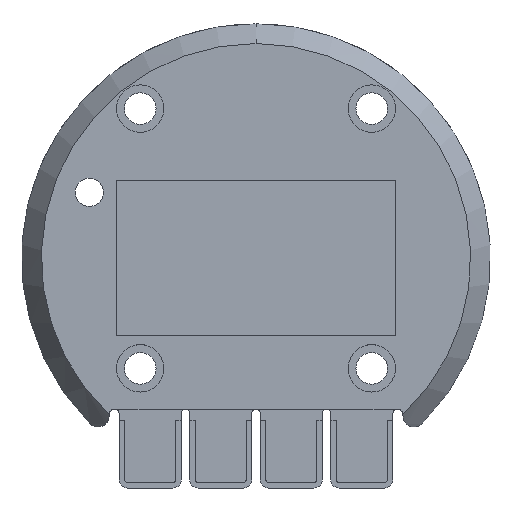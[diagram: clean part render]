
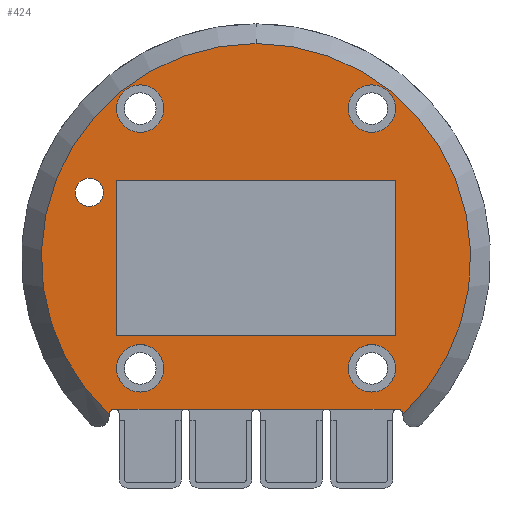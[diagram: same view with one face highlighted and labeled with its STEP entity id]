
A CAD part, top view. The second image highlights one B-rep face of the part: STEP entity #424.
In plain terms, the highlighted planar face has unit normal (0, 0, 1).
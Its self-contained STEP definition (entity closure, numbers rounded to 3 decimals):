
#32 = VERTEX_POINT('',#33);
#33 = CARTESIAN_POINT('',(-13.,-13.84,2.6));
#39 = EDGE_CURVE('',#32,#40,#42,.T.);
#40 = VERTEX_POINT('',#41);
#41 = CARTESIAN_POINT('',(-13.,-13.866,2.6));
#42 = LINE('',#43,#44);
#43 = CARTESIAN_POINT('',(-13.,-13.35,2.6));
#44 = VECTOR('',#45,1.);
#45 = DIRECTION('',(0.,-1.,0.));
#395 = VERTEX_POINT('',#396);
#396 = CARTESIAN_POINT('',(0.,19.007,2.6));
#404 = EDGE_CURVE('',#40,#395,#405,.T.);
#405 = CIRCLE('',#406,19.007);
#406 = AXIS2_PLACEMENT_3D('',#407,#408,#409);
#407 = CARTESIAN_POINT('',(0.,0.,2.6));
#408 = DIRECTION('',(0.,0.,-1.));
#409 = DIRECTION('',(0.,1.,0.));
#424 = ADVANCED_FACE('',(#425,#510,#521,#532,#566,#577,#588),#599,.T.);
#425 = FACE_BOUND('',#426,.T.);
#426 = EDGE_LOOP('',(#427,#428,#437,#445,#453,#461,#469,#477,#485,#494,
    #502,#509));
#427 = ORIENTED_EDGE('',*,*,#39,.F.);
#428 = ORIENTED_EDGE('',*,*,#429,.T.);
#429 = EDGE_CURVE('',#32,#430,#432,.T.);
#430 = VERTEX_POINT('',#431);
#431 = CARTESIAN_POINT('',(-12.51,-13.35,2.6));
#432 = CIRCLE('',#433,0.49);
#433 = AXIS2_PLACEMENT_3D('',#434,#435,#436);
#434 = CARTESIAN_POINT('',(-12.51,-13.84,2.6));
#435 = DIRECTION('',(-0.,-0.,-1.));
#436 = DIRECTION('',(0.,-1.,0.));
#437 = ORIENTED_EDGE('',*,*,#438,.F.);
#438 = EDGE_CURVE('',#439,#430,#441,.T.);
#439 = VERTEX_POINT('',#440);
#440 = CARTESIAN_POINT('',(-12.5,-13.35,2.6));
#441 = LINE('',#442,#443);
#442 = CARTESIAN_POINT('',(13.,-13.35,2.6));
#443 = VECTOR('',#444,1.);
#444 = DIRECTION('',(-1.,0.,0.));
#445 = ORIENTED_EDGE('',*,*,#446,.T.);
#446 = EDGE_CURVE('',#439,#447,#449,.T.);
#447 = VERTEX_POINT('',#448);
#448 = CARTESIAN_POINT('',(-6.25,-13.35,2.6));
#449 = LINE('',#450,#451);
#450 = CARTESIAN_POINT('',(-12.5,-13.35,2.6));
#451 = VECTOR('',#452,1.);
#452 = DIRECTION('',(1.,0.,0.));
#453 = ORIENTED_EDGE('',*,*,#454,.F.);
#454 = EDGE_CURVE('',#455,#447,#457,.T.);
#455 = VERTEX_POINT('',#456);
#456 = CARTESIAN_POINT('',(0.,-13.35,2.6));
#457 = LINE('',#458,#459);
#458 = CARTESIAN_POINT('',(13.,-13.35,2.6));
#459 = VECTOR('',#460,1.);
#460 = DIRECTION('',(-1.,0.,0.));
#461 = ORIENTED_EDGE('',*,*,#462,.F.);
#462 = EDGE_CURVE('',#463,#455,#465,.T.);
#463 = VERTEX_POINT('',#464);
#464 = CARTESIAN_POINT('',(6.25,-13.35,2.6));
#465 = LINE('',#466,#467);
#466 = CARTESIAN_POINT('',(13.,-13.35,2.6));
#467 = VECTOR('',#468,1.);
#468 = DIRECTION('',(-1.,0.,0.));
#469 = ORIENTED_EDGE('',*,*,#470,.F.);
#470 = EDGE_CURVE('',#471,#463,#473,.T.);
#471 = VERTEX_POINT('',#472);
#472 = CARTESIAN_POINT('',(12.5,-13.35,2.6));
#473 = LINE('',#474,#475);
#474 = CARTESIAN_POINT('',(13.,-13.35,2.6));
#475 = VECTOR('',#476,1.);
#476 = DIRECTION('',(-1.,0.,0.));
#477 = ORIENTED_EDGE('',*,*,#478,.F.);
#478 = EDGE_CURVE('',#479,#471,#481,.T.);
#479 = VERTEX_POINT('',#480);
#480 = CARTESIAN_POINT('',(12.51,-13.35,2.6));
#481 = LINE('',#482,#483);
#482 = CARTESIAN_POINT('',(13.,-13.35,2.6));
#483 = VECTOR('',#484,1.);
#484 = DIRECTION('',(-1.,0.,0.));
#485 = ORIENTED_EDGE('',*,*,#486,.T.);
#486 = EDGE_CURVE('',#479,#487,#489,.T.);
#487 = VERTEX_POINT('',#488);
#488 = CARTESIAN_POINT('',(13.,-13.84,2.6));
#489 = CIRCLE('',#490,0.49);
#490 = AXIS2_PLACEMENT_3D('',#491,#492,#493);
#491 = CARTESIAN_POINT('',(12.51,-13.84,2.6));
#492 = DIRECTION('',(-0.,-0.,-1.));
#493 = DIRECTION('',(0.,-1.,0.));
#494 = ORIENTED_EDGE('',*,*,#495,.T.);
#495 = EDGE_CURVE('',#487,#496,#498,.T.);
#496 = VERTEX_POINT('',#497);
#497 = CARTESIAN_POINT('',(13.,-13.866,2.6));
#498 = LINE('',#499,#500);
#499 = CARTESIAN_POINT('',(13.,-13.35,2.6));
#500 = VECTOR('',#501,1.);
#501 = DIRECTION('',(0.,-1.,0.));
#502 = ORIENTED_EDGE('',*,*,#503,.F.);
#503 = EDGE_CURVE('',#395,#496,#504,.T.);
#504 = CIRCLE('',#505,19.007);
#505 = AXIS2_PLACEMENT_3D('',#506,#507,#508);
#506 = CARTESIAN_POINT('',(0.,0.,2.6));
#507 = DIRECTION('',(0.,0.,-1.));
#508 = DIRECTION('',(0.,1.,0.));
#509 = ORIENTED_EDGE('',*,*,#404,.F.);
#510 = FACE_BOUND('',#511,.T.);
#511 = EDGE_LOOP('',(#512));
#512 = ORIENTED_EDGE('',*,*,#513,.T.);
#513 = EDGE_CURVE('',#514,#514,#516,.T.);
#514 = VERTEX_POINT('',#515);
#515 = CARTESIAN_POINT('',(-8.15,-9.75,2.6));
#516 = CIRCLE('',#517,2.1);
#517 = AXIS2_PLACEMENT_3D('',#518,#519,#520);
#518 = CARTESIAN_POINT('',(-10.25,-9.75,2.6));
#519 = DIRECTION('',(0.,0.,-1.));
#520 = DIRECTION('',(1.,0.,0.));
#521 = FACE_BOUND('',#522,.T.);
#522 = EDGE_LOOP('',(#523));
#523 = ORIENTED_EDGE('',*,*,#524,.T.);
#524 = EDGE_CURVE('',#525,#525,#527,.T.);
#525 = VERTEX_POINT('',#526);
#526 = CARTESIAN_POINT('',(12.35,-9.75,2.6));
#527 = CIRCLE('',#528,2.1);
#528 = AXIS2_PLACEMENT_3D('',#529,#530,#531);
#529 = CARTESIAN_POINT('',(10.25,-9.75,2.6));
#530 = DIRECTION('',(0.,0.,-1.));
#531 = DIRECTION('',(1.,0.,0.));
#532 = FACE_BOUND('',#533,.T.);
#533 = EDGE_LOOP('',(#534,#544,#552,#560));
#534 = ORIENTED_EDGE('',*,*,#535,.T.);
#535 = EDGE_CURVE('',#536,#538,#540,.T.);
#536 = VERTEX_POINT('',#537);
#537 = CARTESIAN_POINT('',(-12.35,6.85,2.6));
#538 = VERTEX_POINT('',#539);
#539 = CARTESIAN_POINT('',(12.35,6.85,2.6));
#540 = LINE('',#541,#542);
#541 = CARTESIAN_POINT('',(-12.35,6.85,2.6));
#542 = VECTOR('',#543,1.);
#543 = DIRECTION('',(1.,0.,0.));
#544 = ORIENTED_EDGE('',*,*,#545,.T.);
#545 = EDGE_CURVE('',#538,#546,#548,.T.);
#546 = VERTEX_POINT('',#547);
#547 = CARTESIAN_POINT('',(12.35,-6.85,2.6));
#548 = LINE('',#549,#550);
#549 = CARTESIAN_POINT('',(12.35,6.85,2.6));
#550 = VECTOR('',#551,1.);
#551 = DIRECTION('',(0.,-1.,0.));
#552 = ORIENTED_EDGE('',*,*,#553,.T.);
#553 = EDGE_CURVE('',#546,#554,#556,.T.);
#554 = VERTEX_POINT('',#555);
#555 = CARTESIAN_POINT('',(-12.35,-6.85,2.6));
#556 = LINE('',#557,#558);
#557 = CARTESIAN_POINT('',(12.35,-6.85,2.6));
#558 = VECTOR('',#559,1.);
#559 = DIRECTION('',(-1.,0.,0.));
#560 = ORIENTED_EDGE('',*,*,#561,.T.);
#561 = EDGE_CURVE('',#554,#536,#562,.T.);
#562 = LINE('',#563,#564);
#563 = CARTESIAN_POINT('',(-12.35,-6.85,2.6));
#564 = VECTOR('',#565,1.);
#565 = DIRECTION('',(0.,1.,0.));
#566 = FACE_BOUND('',#567,.T.);
#567 = EDGE_LOOP('',(#568));
#568 = ORIENTED_EDGE('',*,*,#569,.F.);
#569 = EDGE_CURVE('',#570,#570,#572,.T.);
#570 = VERTEX_POINT('',#571);
#571 = CARTESIAN_POINT('',(-13.51,5.83,2.6));
#572 = CIRCLE('',#573,1.25);
#573 = AXIS2_PLACEMENT_3D('',#574,#575,#576);
#574 = CARTESIAN_POINT('',(-14.76,5.83,2.6));
#575 = DIRECTION('',(0.,0.,1.));
#576 = DIRECTION('',(1.,0.,0.));
#577 = FACE_BOUND('',#578,.T.);
#578 = EDGE_LOOP('',(#579));
#579 = ORIENTED_EDGE('',*,*,#580,.T.);
#580 = EDGE_CURVE('',#581,#581,#583,.T.);
#581 = VERTEX_POINT('',#582);
#582 = CARTESIAN_POINT('',(-8.15,13.25,2.6));
#583 = CIRCLE('',#584,2.1);
#584 = AXIS2_PLACEMENT_3D('',#585,#586,#587);
#585 = CARTESIAN_POINT('',(-10.25,13.25,2.6));
#586 = DIRECTION('',(0.,0.,-1.));
#587 = DIRECTION('',(1.,0.,0.));
#588 = FACE_BOUND('',#589,.T.);
#589 = EDGE_LOOP('',(#590));
#590 = ORIENTED_EDGE('',*,*,#591,.T.);
#591 = EDGE_CURVE('',#592,#592,#594,.T.);
#592 = VERTEX_POINT('',#593);
#593 = CARTESIAN_POINT('',(12.35,13.25,2.6));
#594 = CIRCLE('',#595,2.1);
#595 = AXIS2_PLACEMENT_3D('',#596,#597,#598);
#596 = CARTESIAN_POINT('',(10.25,13.25,2.6));
#597 = DIRECTION('',(0.,0.,-1.));
#598 = DIRECTION('',(1.,0.,0.));
#599 = PLANE('',#600);
#600 = AXIS2_PLACEMENT_3D('',#601,#602,#603);
#601 = CARTESIAN_POINT('',(-0.408,0.11,2.6));
#602 = DIRECTION('',(0.,0.,1.));
#603 = DIRECTION('',(1.,0.,0.));
